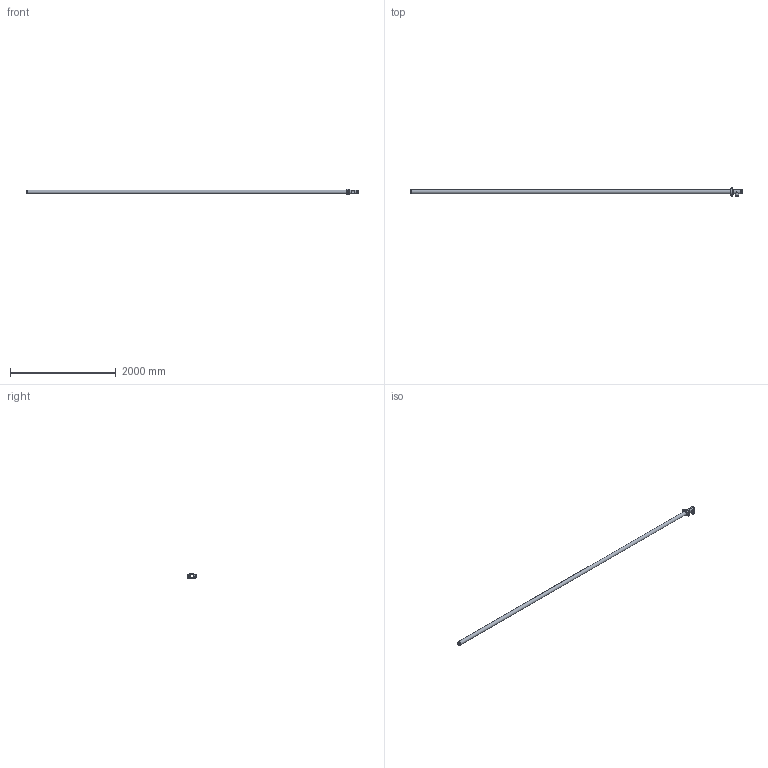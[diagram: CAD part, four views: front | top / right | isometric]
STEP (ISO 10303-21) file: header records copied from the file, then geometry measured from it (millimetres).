
FILE_DESCRIPTION(/* description */ ('VIC LONG RUN FITTING No R22 (OGS)','CAx-IF Rec.Pracs.---Representation and Presentation of Product Manufacturing Information (PMI)---4.0---2014-10-13'),/* implementation_level */ '2;1');
FILE_NAME(/* name */ 'C:\Users\Vjadhav\AppData\Roaming\Autodesk\ApplicationPlugins\Back Up\Victaulic_IPS_Long Run Fittings_No R22 (OGS)\Victaulic_IPS_Long Run Fittings_No R22 (OGS)_2.5 (65).stp',/* time_stamp */ '2020-10-14T10:37:42+05:00',/* author */ ('Vjadhav'),/* organization */ ('Victaulic'),/* preprocessor_version */ 'ST-DEVELOPER v17.2',/* originating_system */ 'Autodesk Inventor 2019',/* authorisation */ '');
FILE_SCHEMA (('AP242_MANAGED_MODEL_BASED_3D_ENGINEERING_MIM_LF { 1 0 10303 442 1 1 4 }'));
Length unit declared in the file: inch
Products named in the file (4): R22-02.5; 020-02.5; 177N-02.5; Pipe_R10-02.5
Assembly tree (3 placements, depth 2):
  R22-02.5
    020-02.5
    177N-02.5
    Pipe_R10-02.5
Bounding box: 6292.85 x 179.72 x 111.25 mm (x, y, z)
Volume: 7320919.3 mm3; surface area: 2772255.1 mm2
Topology: 3 solids, 3 shells, 122 faces, 323 edges, 222 vertices
Faces by surface type: plane 71, cylinder 41, cone 4, torus 4, sphere 2
Full cylindrical faces by diameter (mm): 12.7 x2, 19.05 x2, 60.325 x1, 62.713 x3, 69.088 x5, 73.025 x10
Entity records: 4247 total; most frequent: CARTESIAN_POINT 750, DIRECTION 711, ORIENTED_EDGE 654, EDGE_CURVE 327, AXIS2_PLACEMENT_3D 271, VERTEX_POINT 222, LINE 169, VECTOR 169
